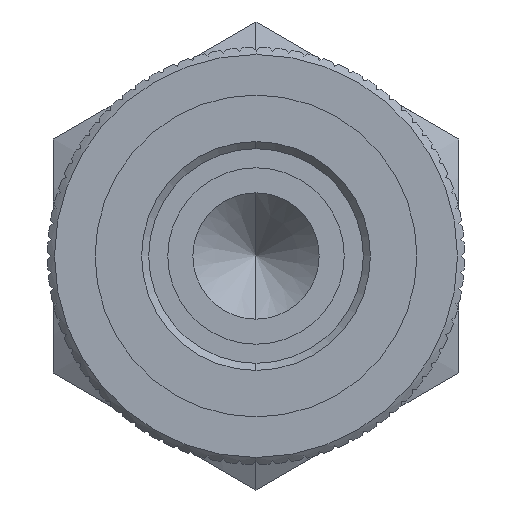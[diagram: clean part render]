
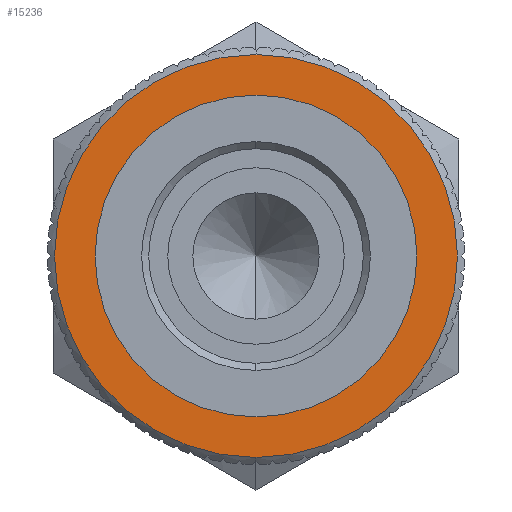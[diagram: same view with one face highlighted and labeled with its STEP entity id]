
A CAD part, front view. The second image highlights one B-rep face of the part: STEP entity #15236.
In plain terms, the highlighted planar face has unit normal (0, -1, 0).
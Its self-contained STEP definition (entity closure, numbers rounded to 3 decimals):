
#95 = DIRECTION ( 'NONE',  ( 0., -1., 0. ) ) ;
#128 = DIRECTION ( 'NONE',  ( 0., -1., 0. ) ) ;
#141 = EDGE_CURVE ( 'NONE', #7597, #16638, #18319, .T. ) ;
#434 = PLANE ( 'NONE',  #20046 ) ;
#570 = CARTESIAN_POINT ( 'NONE',  ( 6.5, -10.8, 0. ) ) ;
#690 = DIRECTION ( 'NONE',  ( 0., -1., 0. ) ) ;
#1064 = EDGE_CURVE ( 'NONE', #24499, #1448, #2058, .T. ) ;
#1357 = ORIENTED_EDGE ( 'NONE', *, *, #22199, .T. ) ;
#1448 = VERTEX_POINT ( 'NONE', #5219 ) ;
#2058 = CIRCLE ( 'NONE', #9785, 6.5 ) ;
#2275 = DIRECTION ( 'NONE',  ( 0., 0., -1. ) ) ;
#4984 = CARTESIAN_POINT ( 'NONE',  ( 0., -10.8, 6.5 ) ) ;
#5219 = CARTESIAN_POINT ( 'NONE',  ( 0., -10.8, -6.5 ) ) ;
#7170 = AXIS2_PLACEMENT_3D ( 'NONE', #21246, #128, #2275 ) ;
#7597 = VERTEX_POINT ( 'NONE', #10159 ) ;
#8161 = CARTESIAN_POINT ( 'NONE',  ( 0., -10.8, 0. ) ) ;
#8272 = EDGE_CURVE ( 'NONE', #1448, #24499, #13178, .T. ) ;
#8278 = DIRECTION ( 'NONE',  ( 0., 0., -1. ) ) ;
#8866 = CARTESIAN_POINT ( 'NONE',  ( 0., -10.8, 8.45 ) ) ;
#9785 = AXIS2_PLACEMENT_3D ( 'NONE', #8161, #95, #26191 ) ;
#10159 = CARTESIAN_POINT ( 'NONE',  ( 0., -10.8, -8.45 ) ) ;
#10769 = ORIENTED_EDGE ( 'NONE', *, *, #141, .T. ) ;
#12309 = EDGE_LOOP ( 'NONE', ( #12549, #21802 ) ) ;
#12439 = CARTESIAN_POINT ( 'NONE',  ( 0., -10.8, 0. ) ) ;
#12549 = ORIENTED_EDGE ( 'NONE', *, *, #8272, .F. ) ;
#13178 = CIRCLE ( 'NONE', #7170, 6.5 ) ;
#15236 = ADVANCED_FACE ( 'NONE', ( #22645, #18891 ), #434, .T. ) ;
#15513 = DIRECTION ( 'NONE',  ( 0., 0., -1. ) ) ;
#16170 = DIRECTION ( 'NONE',  ( 0., 0., -1. ) ) ;
#16638 = VERTEX_POINT ( 'NONE', #8866 ) ;
#17915 = DIRECTION ( 'NONE',  ( 0., -1., 0. ) ) ;
#18319 = CIRCLE ( 'NONE', #23061, 8.45 ) ;
#18806 = DIRECTION ( 'NONE',  ( 0., -1., 0. ) ) ;
#18891 = FACE_BOUND ( 'NONE', #12309, .T. ) ;
#19537 = CIRCLE ( 'NONE', #25149, 8.45 ) ;
#20046 = AXIS2_PLACEMENT_3D ( 'NONE', #570, #690, #15513 ) ;
#21246 = CARTESIAN_POINT ( 'NONE',  ( 0., -10.8, 0. ) ) ;
#21802 = ORIENTED_EDGE ( 'NONE', *, *, #1064, .F. ) ;
#22199 = EDGE_CURVE ( 'NONE', #16638, #7597, #19537, .T. ) ;
#22645 = FACE_OUTER_BOUND ( 'NONE', #25299, .T. ) ;
#23061 = AXIS2_PLACEMENT_3D ( 'NONE', #23975, #17915, #16170 ) ;
#23975 = CARTESIAN_POINT ( 'NONE',  ( 0., -10.8, 0. ) ) ;
#24499 = VERTEX_POINT ( 'NONE', #4984 ) ;
#25149 = AXIS2_PLACEMENT_3D ( 'NONE', #12439, #18806, #8278 ) ;
#25299 = EDGE_LOOP ( 'NONE', ( #1357, #10769 ) ) ;
#26191 = DIRECTION ( 'NONE',  ( 0., 0., -1. ) ) ;
